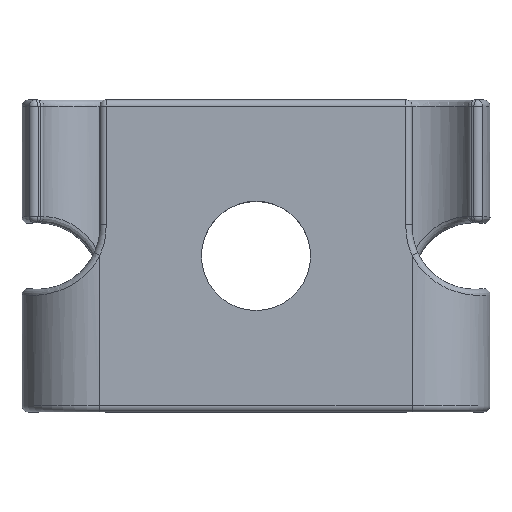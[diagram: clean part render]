
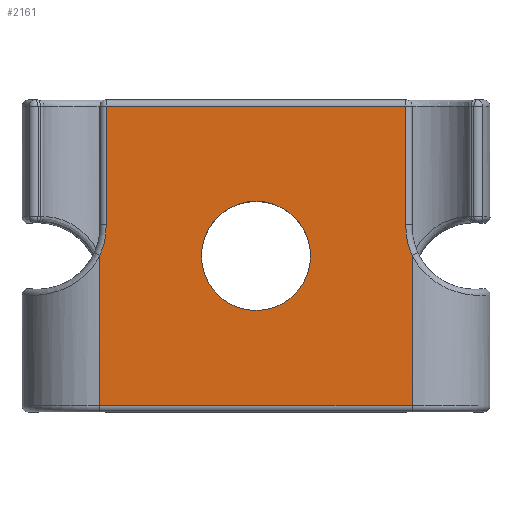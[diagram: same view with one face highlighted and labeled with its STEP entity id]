
A CAD part, top view. The second image highlights one B-rep face of the part: STEP entity #2161.
In plain terms, the highlighted planar face has unit normal (0, 0, 1).
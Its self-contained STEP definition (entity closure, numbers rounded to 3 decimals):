
#23=FACE_BOUND('',#344,.T.);
#29=PLANE('',#2404);
#183=FACE_OUTER_BOUND('',#343,.T.);
#343=EDGE_LOOP('',(#1618,#1619,#1620,#1621,#1622,#1623,#1624,#1625));
#344=EDGE_LOOP('',(#1626));
#574=CIRCLE('',#2384,22.);
#584=CIRCLE('',#2405,22.);
#585=CIRCLE('',#2406,17.5);
#730=LINE('',#4223,#818);
#736=LINE('',#4355,#824);
#737=LINE('',#4359,#825);
#738=LINE('',#4361,#826);
#739=LINE('',#4363,#827);
#740=LINE('',#4366,#828);
#818=VECTOR('',#2842,10.);
#824=VECTOR('',#2892,10.);
#825=VECTOR('',#2897,10.);
#826=VECTOR('',#2898,10.);
#827=VECTOR('',#2899,10.);
#828=VECTOR('',#2902,10.);
#959=VERTEX_POINT('',#4212);
#962=VERTEX_POINT('',#4219);
#965=VERTEX_POINT('',#4229);
#967=VERTEX_POINT('',#4354);
#968=VERTEX_POINT('',#4358);
#969=VERTEX_POINT('',#4360);
#970=VERTEX_POINT('',#4362);
#971=VERTEX_POINT('',#4364);
#972=VERTEX_POINT('',#4367);
#1179=EDGE_CURVE('',#959,#962,#730,.T.);
#1183=EDGE_CURVE('',#965,#959,#574,.T.);
#1199=EDGE_CURVE('',#962,#967,#736,.T.);
#1201=EDGE_CURVE('',#968,#965,#737,.T.);
#1202=EDGE_CURVE('',#969,#968,#738,.T.);
#1203=EDGE_CURVE('',#970,#969,#739,.T.);
#1204=EDGE_CURVE('',#971,#970,#584,.T.);
#1205=EDGE_CURVE('',#967,#971,#740,.T.);
#1206=EDGE_CURVE('',#972,#972,#585,.T.);
#1618=ORIENTED_EDGE('',*,*,#1179,.F.);
#1619=ORIENTED_EDGE('',*,*,#1183,.F.);
#1620=ORIENTED_EDGE('',*,*,#1201,.F.);
#1621=ORIENTED_EDGE('',*,*,#1202,.F.);
#1622=ORIENTED_EDGE('',*,*,#1203,.F.);
#1623=ORIENTED_EDGE('',*,*,#1204,.F.);
#1624=ORIENTED_EDGE('',*,*,#1205,.F.);
#1625=ORIENTED_EDGE('',*,*,#1199,.F.);
#1626=ORIENTED_EDGE('',*,*,#1206,.T.);
#2161=ADVANCED_FACE('',(#183,#23),#29,.T.);
#2384=AXIS2_PLACEMENT_3D('',#4231,#2851,#2852);
#2404=AXIS2_PLACEMENT_3D('',#4357,#2895,#2896);
#2405=AXIS2_PLACEMENT_3D('',#4365,#2900,#2901);
#2406=AXIS2_PLACEMENT_3D('',#4368,#2903,#2904);
#2842=DIRECTION('',(0.,1.,0.));
#2851=DIRECTION('center_axis',(0.,0.,1.));
#2852=DIRECTION('ref_axis',(1.,0.,0.));
#2892=DIRECTION('',(1.,0.,0.));
#2895=DIRECTION('center_axis',(0.,0.,1.));
#2896=DIRECTION('ref_axis',(1.,0.,0.));
#2897=DIRECTION('',(0.,1.,0.));
#2898=DIRECTION('',(-1.,0.,0.));
#2899=DIRECTION('',(0.,-1.,0.));
#2900=DIRECTION('center_axis',(0.,0.,1.));
#2901=DIRECTION('ref_axis',(-1.,0.,0.));
#2902=DIRECTION('',(0.,-1.,0.));
#2903=DIRECTION('center_axis',(0.,0.,-1.));
#2904=DIRECTION('ref_axis',(1.,0.,0.));
#4212=CARTESIAN_POINT('',(-133.,70.031,50.));
#4219=CARTESIAN_POINT('',(-133.,108.,50.));
#4223=CARTESIAN_POINT('',(-133.,85.,50.));
#4229=CARTESIAN_POINT('',(-135.,60.175,50.));
#4231=CARTESIAN_POINT('Origin',(-154.99,69.362,50.));
#4354=CARTESIAN_POINT('',(-37.,108.,50.));
#4355=CARTESIAN_POINT('',(-47.5,108.,50.));
#4357=CARTESIAN_POINT('Origin',(-85.,60.,50.));
#4358=CARTESIAN_POINT('',(-135.,12.,50.));
#4359=CARTESIAN_POINT('',(-135.,85.,50.));
#4360=CARTESIAN_POINT('',(-35.,12.,50.));
#4361=CARTESIAN_POINT('',(-122.5,12.,50.));
#4362=CARTESIAN_POINT('',(-35.,60.175,50.));
#4363=CARTESIAN_POINT('',(-35.,35.,50.));
#4364=CARTESIAN_POINT('',(-37.,70.031,50.));
#4365=CARTESIAN_POINT('Origin',(-15.01,69.362,50.));
#4366=CARTESIAN_POINT('',(-37.,85.,50.));
#4367=CARTESIAN_POINT('',(-102.5,60.,50.));
#4368=CARTESIAN_POINT('Origin',(-85.,60.,50.));
